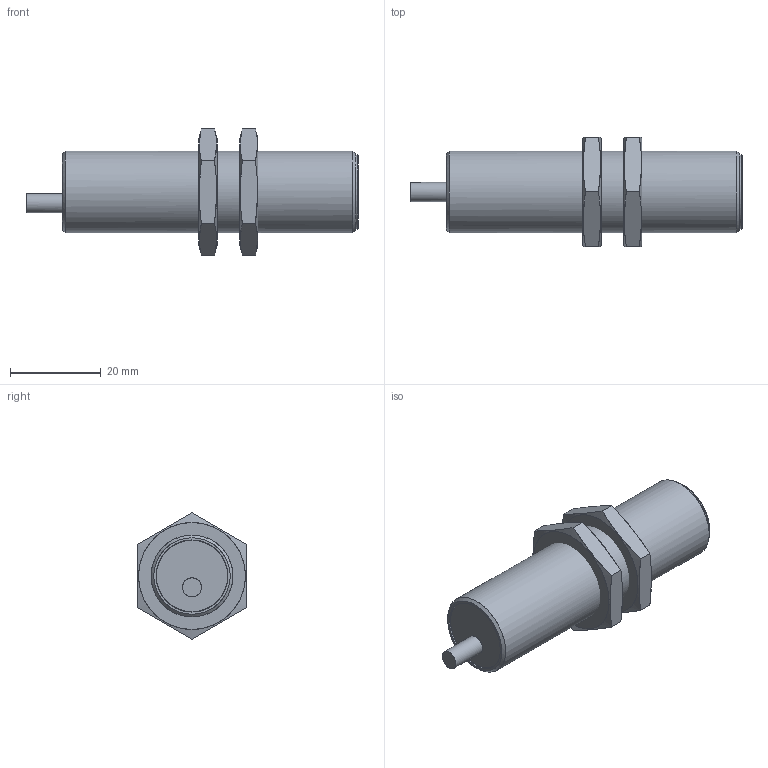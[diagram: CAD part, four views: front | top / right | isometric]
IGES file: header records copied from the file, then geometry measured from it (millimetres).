
Start section: C
Global section: file name: IFRM 18xxxA4_L.igs; native system:  By UGS Corp.; preprocessor: XPlus GENERIC/IGES 3.0; author: Author; organization: Title; date: 20130507.111933; units: millimetre
Bounding box: 73 x 24 x 27.71 mm (x, y, z)
Surface area: 6382.4 mm2 (no closed solid volume)
Topology: 0 solids, 0 shells, 48 faces, 262 edges, 262 vertices
Faces by surface type: bspline 48
